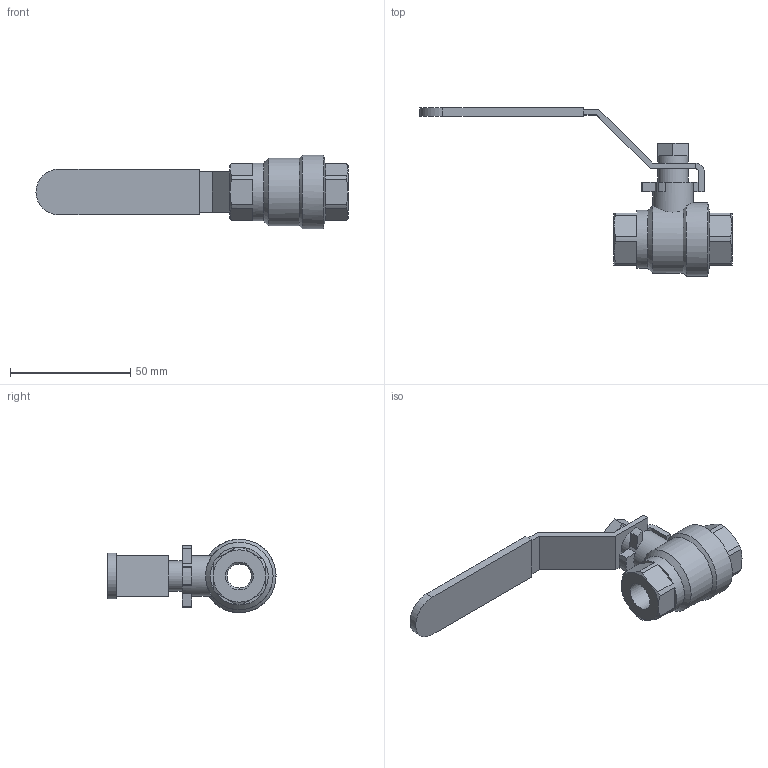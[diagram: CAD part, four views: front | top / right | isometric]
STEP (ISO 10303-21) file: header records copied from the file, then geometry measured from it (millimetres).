
FILE_DESCRIPTION (( 'STEP AP203' ), '1' );
FILE_NAME ('B3.622I007XFVPB0.STEP', '2018-10-04T14:43:58', ( 'dell2' ), ( 'Microsoft' ), 'SwSTEP 2.0', 'SolidWorks 2014', '' );
FILE_SCHEMA (( 'CONFIG_CONTROL_DESIGN' ));
Length unit declared in the file: millimetre
Products named in the file (1): B3.622I007XFVPB0
Bounding box: 129.5 x 69.75 x 30.5 mm (x, y, z)
Volume: 32976.1 mm3; surface area: 13391.3 mm2
Topology: 1 solids, 1 shells, 111 faces, 280 edges, 175 vertices
Faces by surface type: plane 72, cylinder 22, cone 17
Full cylindrical faces by diameter (mm): 10 x1, 11.6 x2, 12.6 x2, 16.8 x1, 24 x1, 28 x1, 30.5 x1
Entity records: 3435 total; most frequent: CARTESIAN_POINT 792, DIRECTION 534, ORIENTED_EDGE 520, EDGE_CURVE 260, AXIS2_PLACEMENT_3D 196, VERTEX_POINT 168, LINE 142, VECTOR 142
